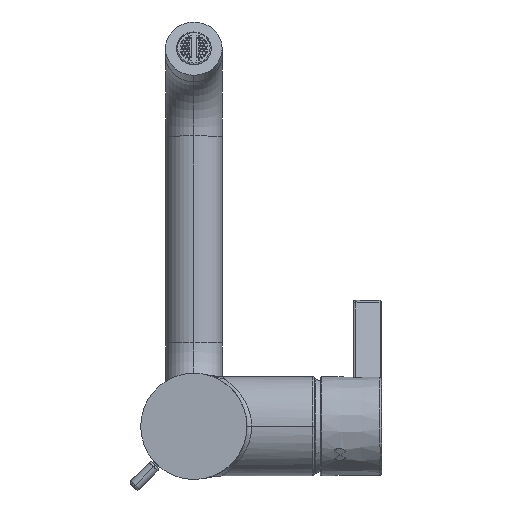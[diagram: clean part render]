
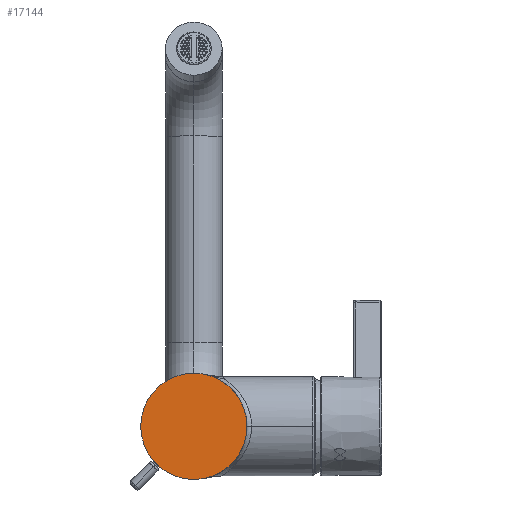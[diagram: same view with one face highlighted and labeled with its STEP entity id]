
A CAD part, front view. The second image highlights one B-rep face of the part: STEP entity #17144.
In plain terms, the highlighted planar face has unit normal (0, -1, 0).
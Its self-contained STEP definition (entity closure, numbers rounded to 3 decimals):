
#145=CARTESIAN_POINT('',(0.,0.,0.));
#146=DIRECTION('',(0.,-1.,0.));
#147=DIRECTION('',(1.,0.,0.));
#148=AXIS2_PLACEMENT_3D('',#145,#146,#147);
#155=CARTESIAN_POINT('',(0.,0.,0.));
#156=DIRECTION('',(0.,1.,0.));
#157=DIRECTION('',(1.,0.,0.));
#158=AXIS2_PLACEMENT_3D('',#155,#156,#157);
#15204=CARTESIAN_POINT('',(22.5,0.,0.));
#15205=CARTESIAN_POINT('',(-22.5,0.,0.));
#15206=VERTEX_POINT('',#15204);
#15207=VERTEX_POINT('',#15205);
#17133=CARTESIAN_POINT('',(0.,0.,0.));
#17134=DIRECTION('',(0.,1.,0.));
#17135=DIRECTION('',(1.,0.,0.));
#17136=AXIS2_PLACEMENT_3D('',#17133,#17134,#17135);
#17137=PLANE('',#17136);
#17139=ORIENTED_EDGE('',*,*,#17138,.F.);
#17141=ORIENTED_EDGE('',*,*,#17140,.T.);
#17142=EDGE_LOOP('',(#17139,#17141));
#17143=FACE_OUTER_BOUND('',#17142,.F.);
#17144=ADVANCED_FACE('',(#17143),#17137,.F.);
#149=CIRCLE('',#148,22.5);
#159=CIRCLE('',#158,22.5);
#17138=EDGE_CURVE('',#15206,#15207,#149,.T.);
#17140=EDGE_CURVE('',#15206,#15207,#159,.T.);
